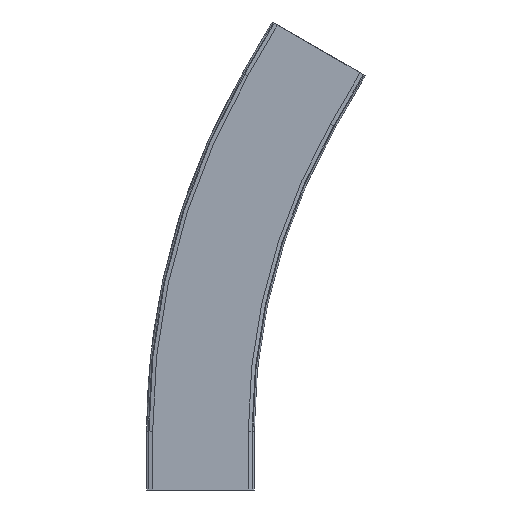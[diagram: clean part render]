
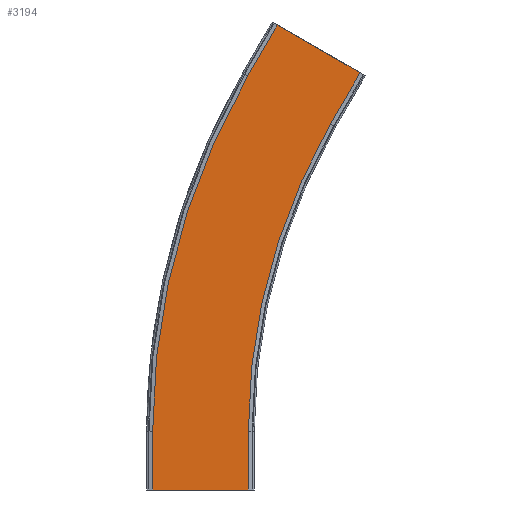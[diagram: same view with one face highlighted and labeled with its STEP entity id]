
A CAD part, front view. The second image highlights one B-rep face of the part: STEP entity #3194.
In plain terms, the highlighted planar face has unit normal (0, -1, 0).
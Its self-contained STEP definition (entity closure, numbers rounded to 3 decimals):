
#131=CIRCLE('',#3392,835.);
#132=CIRCLE('',#3394,965.);
#278=FACE_OUTER_BOUND('',#449,.T.);
#449=EDGE_LOOP('',(#2143,#2144,#2145,#2146,#2147,#2148,#2149,#2150));
#627=LINE('',#4466,#973);
#631=LINE('',#4473,#977);
#642=LINE('',#4506,#988);
#643=LINE('',#4508,#989);
#644=LINE('',#4509,#990);
#645=LINE('',#4510,#991);
#973=VECTOR('',#3632,10.);
#977=VECTOR('',#3638,10.);
#988=VECTOR('',#3669,10.);
#989=VECTOR('',#3670,10.);
#990=VECTOR('',#3671,10.);
#991=VECTOR('',#3672,10.);
#1319=VERTEX_POINT('',#4463);
#1320=VERTEX_POINT('',#4465);
#1322=VERTEX_POINT('',#4471);
#1331=VERTEX_POINT('',#4497);
#1332=VERTEX_POINT('',#4499);
#1333=VERTEX_POINT('',#4503);
#1334=VERTEX_POINT('',#4505);
#1335=VERTEX_POINT('',#4507);
#1635=EDGE_CURVE('',#1320,#1319,#627,.T.);
#1639=EDGE_CURVE('',#1322,#1319,#631,.T.);
#1652=EDGE_CURVE('',#1332,#1331,#131,.T.);
#1654=EDGE_CURVE('',#1333,#1322,#132,.T.);
#1655=EDGE_CURVE('',#1334,#1333,#642,.T.);
#1656=EDGE_CURVE('',#1334,#1335,#643,.T.);
#1657=EDGE_CURVE('',#1335,#1332,#644,.T.);
#1658=EDGE_CURVE('',#1331,#1320,#645,.T.);
#2143=ORIENTED_EDGE('',*,*,#1635,.T.);
#2144=ORIENTED_EDGE('',*,*,#1639,.F.);
#2145=ORIENTED_EDGE('',*,*,#1654,.F.);
#2146=ORIENTED_EDGE('',*,*,#1655,.F.);
#2147=ORIENTED_EDGE('',*,*,#1656,.T.);
#2148=ORIENTED_EDGE('',*,*,#1657,.T.);
#2149=ORIENTED_EDGE('',*,*,#1652,.T.);
#2150=ORIENTED_EDGE('',*,*,#1658,.T.);
#3081=PLANE('',#3393);
#3194=ADVANCED_FACE('',(#278),#3081,.T.);
#3392=AXIS2_PLACEMENT_3D('',#4500,#3662,#3663);
#3393=AXIS2_PLACEMENT_3D('',#4502,#3665,#3666);
#3394=AXIS2_PLACEMENT_3D('',#4504,#3667,#3668);
#3632=DIRECTION('',(-0.866,0.,0.5));
#3638=DIRECTION('',(0.5,0.,0.866));
#3662=DIRECTION('center_axis',(0.,1.,0.));
#3663=DIRECTION('ref_axis',(-1.,0.,0.));
#3665=DIRECTION('center_axis',(0.,-1.,0.));
#3666=DIRECTION('ref_axis',(-0.5,0.,-0.866));
#3667=DIRECTION('center_axis',(0.,1.,0.));
#3668=DIRECTION('ref_axis',(-1.,0.,0.));
#3669=DIRECTION('',(0.,0.,1.));
#3670=DIRECTION('',(1.,0.,0.));
#3671=DIRECTION('',(0.,0.,1.));
#3672=DIRECTION('',(0.5,0.,0.866));
#4463=CARTESIAN_POINT('',(143.286,-72.,631.782));
#4465=CARTESIAN_POINT('',(255.869,-72.,566.782));
#4466=CARTESIAN_POINT('',(226.425,-72.,583.782));
#4471=CARTESIAN_POINT('',(103.286,-72.,562.5));
#4473=CARTESIAN_POINT('',(-172.333,-72.,85.113));
#4497=CARTESIAN_POINT('',(215.869,-72.,497.5));
#4499=CARTESIAN_POINT('',(104.001,-72.,80.));
#4500=CARTESIAN_POINT('Origin',(939.001,-72.,80.));
#4502=CARTESIAN_POINT('Origin',(-59.75,-72.,20.113));
#4503=CARTESIAN_POINT('',(-25.999,-72.,80.));
#4504=CARTESIAN_POINT('Origin',(939.001,-72.,80.));
#4505=CARTESIAN_POINT('',(-25.999,-72.,0.));
#4506=CARTESIAN_POINT('',(-25.999,-72.,0.));
#4507=CARTESIAN_POINT('',(104.001,-72.,0.));
#4508=CARTESIAN_POINT('',(-25.999,-72.,0.));
#4509=CARTESIAN_POINT('',(104.001,-72.,0.));
#4510=CARTESIAN_POINT('',(-59.75,-72.,20.113));
